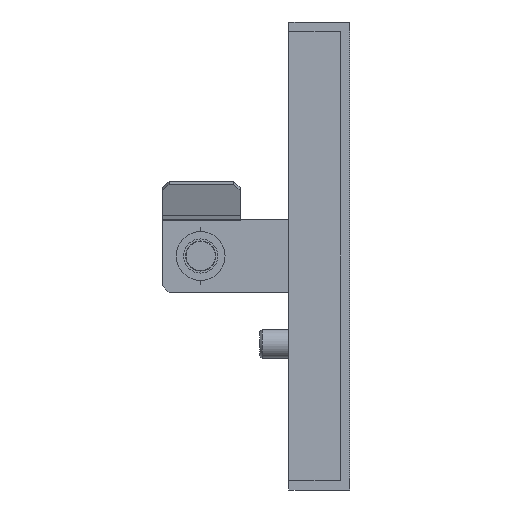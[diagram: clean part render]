
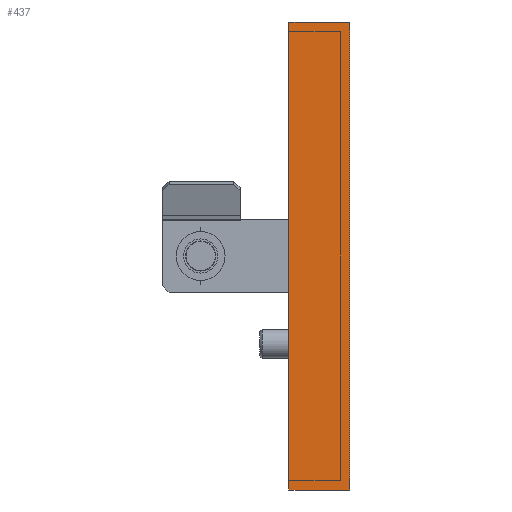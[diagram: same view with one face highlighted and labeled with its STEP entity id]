
A CAD part, front view. The second image highlights one B-rep face of the part: STEP entity #437.
In plain terms, the highlighted planar face has unit normal (0, -1, 0).
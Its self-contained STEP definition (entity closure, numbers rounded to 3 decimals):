
#437 = ADVANCED_FACE ( 'NONE', ( #9282 ), #3954, .F. ) ;
#880 = VERTEX_POINT ( 'NONE', #13067 ) ;
#1248 = CARTESIAN_POINT ( 'NONE',  ( 2.928, -297.5, 48. ) ) ;
#1788 = CARTESIAN_POINT ( 'NONE',  ( -12.5, -297.5, 0. ) ) ;
#1849 = CARTESIAN_POINT ( 'NONE',  ( -2., -297.5, 0. ) ) ;
#2028 = DIRECTION ( 'NONE',  ( -1., 0., 0. ) ) ;
#2572 = LINE ( 'NONE', #1248, #7457 ) ;
#2663 = DIRECTION ( 'NONE',  ( 0., 0., 1. ) ) ;
#2848 = LINE ( 'NONE', #1788, #3208 ) ;
#2987 = DIRECTION ( 'NONE',  ( 0., 0., -1. ) ) ;
#3208 = VECTOR ( 'NONE', #2987, 1000. ) ;
#3704 = ORIENTED_EDGE ( 'NONE', *, *, #11192, .T. ) ;
#3954 = PLANE ( 'NONE',  #4391 ) ;
#4136 = LINE ( 'NONE', #6458, #7934 ) ;
#4298 = ORIENTED_EDGE ( 'NONE', *, *, #6822, .T. ) ;
#4391 = AXIS2_PLACEMENT_3D ( 'NONE', #1849, #8185, #5842 ) ;
#5379 = EDGE_CURVE ( 'NONE', #7736, #12300, #6886, .T. ) ;
#5567 = ORIENTED_EDGE ( 'NONE', *, *, #5379, .T. ) ;
#5842 = DIRECTION ( 'NONE',  ( 1., 0., 0. ) ) ;
#6381 = EDGE_CURVE ( 'NONE', #7736, #7597, #4136, .T. ) ;
#6458 = CARTESIAN_POINT ( 'NONE',  ( 2.928, -297.5, -48. ) ) ;
#6465 = ORIENTED_EDGE ( 'NONE', *, *, #6381, .F. ) ;
#6763 = CARTESIAN_POINT ( 'NONE',  ( 0., -297.5, 48. ) ) ;
#6822 = EDGE_CURVE ( 'NONE', #12300, #880, #2572, .T. ) ;
#6886 = LINE ( 'NONE', #11129, #10009 ) ;
#7457 = VECTOR ( 'NONE', #9987, 1000. ) ;
#7597 = VERTEX_POINT ( 'NONE', #7810 ) ;
#7736 = VERTEX_POINT ( 'NONE', #8539 ) ;
#7810 = CARTESIAN_POINT ( 'NONE',  ( -12.5, -297.5, -48. ) ) ;
#7934 = VECTOR ( 'NONE', #2028, 1000. ) ;
#7935 = EDGE_LOOP ( 'NONE', ( #6465, #5567, #4298, #3704 ) ) ;
#8185 = DIRECTION ( 'NONE',  ( 0., 1., 0. ) ) ;
#8539 = CARTESIAN_POINT ( 'NONE',  ( 0., -297.5, -48. ) ) ;
#9282 = FACE_OUTER_BOUND ( 'NONE', #7935, .T. ) ;
#9987 = DIRECTION ( 'NONE',  ( -1., 0., 0. ) ) ;
#10009 = VECTOR ( 'NONE', #2663, 1000. ) ;
#11129 = CARTESIAN_POINT ( 'NONE',  ( 0., -297.5, 0. ) ) ;
#11192 = EDGE_CURVE ( 'NONE', #880, #7597, #2848, .T. ) ;
#12300 = VERTEX_POINT ( 'NONE', #6763 ) ;
#13067 = CARTESIAN_POINT ( 'NONE',  ( -12.5, -297.5, 48. ) ) ;
